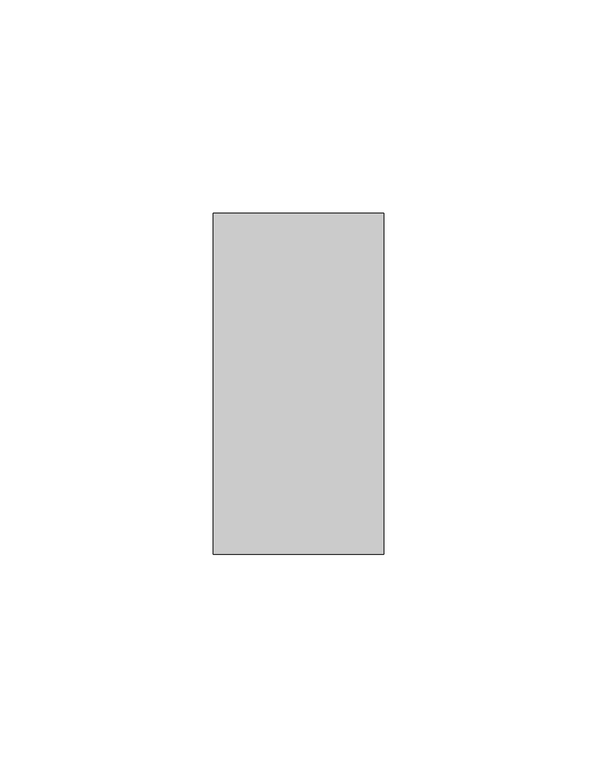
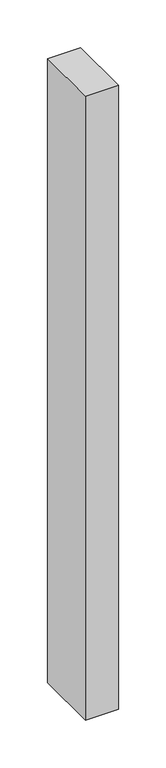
"""IFC4 building model written with IfcOpenShell, lengths in millimetres: member geometry, Obdélníková příčel : VERTI PANORAMA - vertikální."""

from ifc_helpers import new_model, si_unit, frame, origin, place, context, project, spatial, polyline, outline, extrude, source, transform, mapped, element, save


def member_84f8328c(model_context):
    return source(origin(), model_context, "Body", "SweptSolid", [
        extrude(outline(polyline([(0.0, 40.0), (0.0, -40.0), (-40.0, -40.0), (-40.0, 40.0), (0.0, 40.0)])), frame((0.0, 0.0, -800.0), z_axis=(0.0, 0.0, 1.0), x_axis=(1.0, 0.0, 0.0)), (0.0, 0.0, 1.0), 800.0),
    ])


if __name__ == "__main__":
    model = new_model("IFC4")
    model_context = context("Model", 3, world=origin())
    ifc_project = project(units=[si_unit("LENGTHUNIT", "METRE", prefix="MILLI")], contexts=[model_context])
    site = spatial("IfcSite", under=ifc_project)
    building = spatial("IfcBuilding", under=site)
    placement = place(None, origin())
    member_shape = member_84f8328c(model_context)
    element("IfcMember", 1, ObjectType="Obdélníková příčel : VERTI PANORAMA - vertikální", at=placement, inside=building, context=model_context, shape_type="MappedRepresentation", body=[
        mapped(member_shape, transform((0.0, 0.0, 0.0), x_axis=(1.0, 0.0, 0.0), y_axis=(0.0, 1.0, 0.0), z_axis=(0.0, 0.0, 1.0))),
    ])
    save(model, "model.ifc")
